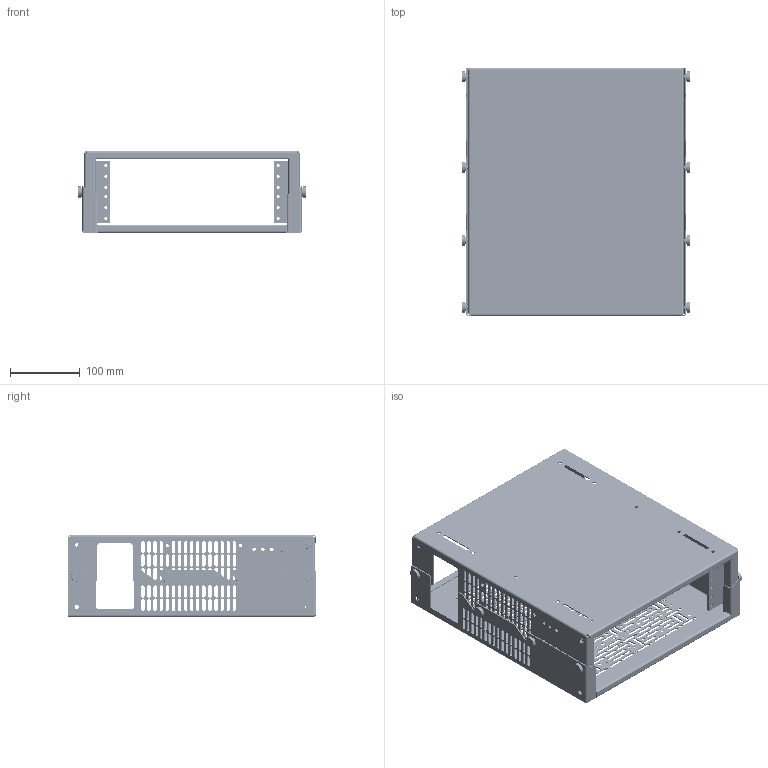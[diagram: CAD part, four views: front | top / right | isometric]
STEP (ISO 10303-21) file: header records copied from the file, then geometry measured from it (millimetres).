
FILE_DESCRIPTION((''),'2;1');
FILE_NAME('AUTBHR1_ASM','2015-12-15T',('rrenderos'),('Middle Atlantic Products'),'PRO/ENGINEER BY PARAMETRIC TECHNOLOGY CORPORATION, 2014310','PRO/ENGINEER BY PARAMETRIC TECHNOLOGY CORPORATION, 2014310','');
FILE_SCHEMA(('CONFIG_CONTROL_DESIGN'));
Length unit declared in the file: inch
Products named in the file (11): BUTBHRT1; 80-032; PUTBHRT1_ASM; 500-00432; AUTBHRT1_ASM; PUTBHRB1; CVRR2; 500-00120; 500-00511; 500-00490; AUTBHR1_ASM
Assembly tree (38 placements, depth 4):
  AUTBHR1_ASM
    AUTBHRT1_ASM
      PUTBHRT1_ASM
        BUTBHRT1
        80-032  x12
      500-00432  x4
    PUTBHRB1
    CVRR2  x2
    500-00120  x4
    500-00511  x4
    500-00490  x8
Bounding box: 326.9 x 355.6 x 117.47 mm (x, y, z)
Volume: 486983.3 mm3; surface area: 653215.8 mm2
Topology: 36 solids, 36 shells, 3074 faces, 8420 edges, 5486 vertices
Faces by surface type: cylinder 1574, plane 1226, cone 166, torus 80, bspline 28
Entity records: 89466 total; most frequent: CARTESIAN_POINT 15924, DIRECTION 15574, ORIENTED_EDGE 14888, EDGE_CURVE 7444, AXIS2_PLACEMENT_3D 5532, VERTEX_POINT 4874, VECTOR 4510, LINE 4510
